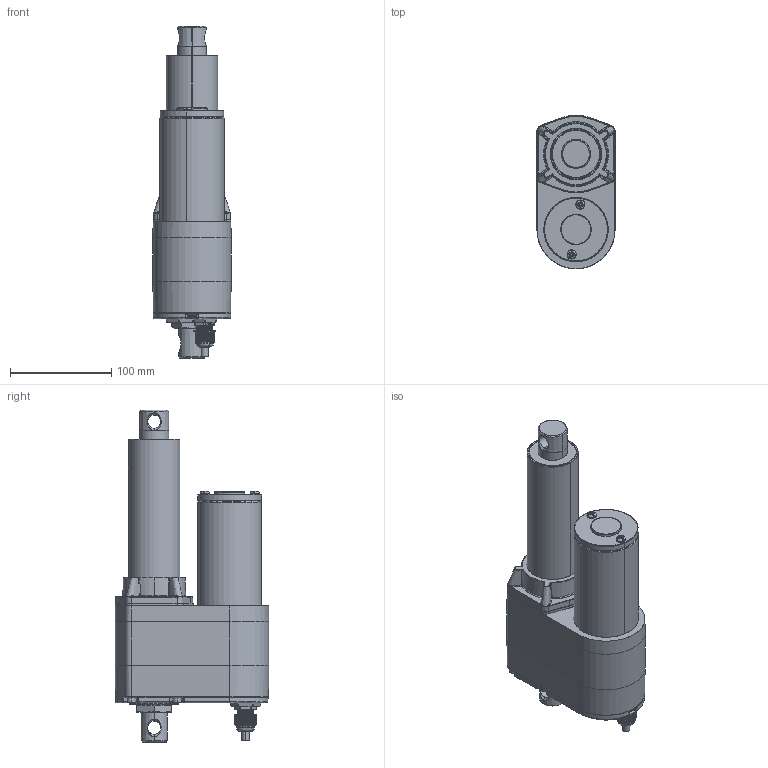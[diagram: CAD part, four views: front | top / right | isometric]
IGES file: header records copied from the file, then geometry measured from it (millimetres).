
Start section: SolidWorks IGES file using analytic representation for surfaces
Global section: file name: C:\Users\lynn\Desktop\工作用資料夾\3D CAD Models Community\ID10(over)\新增IP69\ID10\3D\ID10-A-102-POT-IP69K\ID10-A-102-POT-IP69K.IGS; native system: SolidWorks 2020; preprocessor: SolidWorks 2020; author: lynn; date: 221004.173324; units: millimetre
Bounding box: 77.3 x 151.8 x 327.5 mm (x, y, z)
Surface area: 169091.8 mm2 (no closed solid volume)
Topology: 0 solids, 0 shells, 2286 faces, 21648 edges, 21600 vertices
Faces by surface type: bspline 1466, revolution 820
